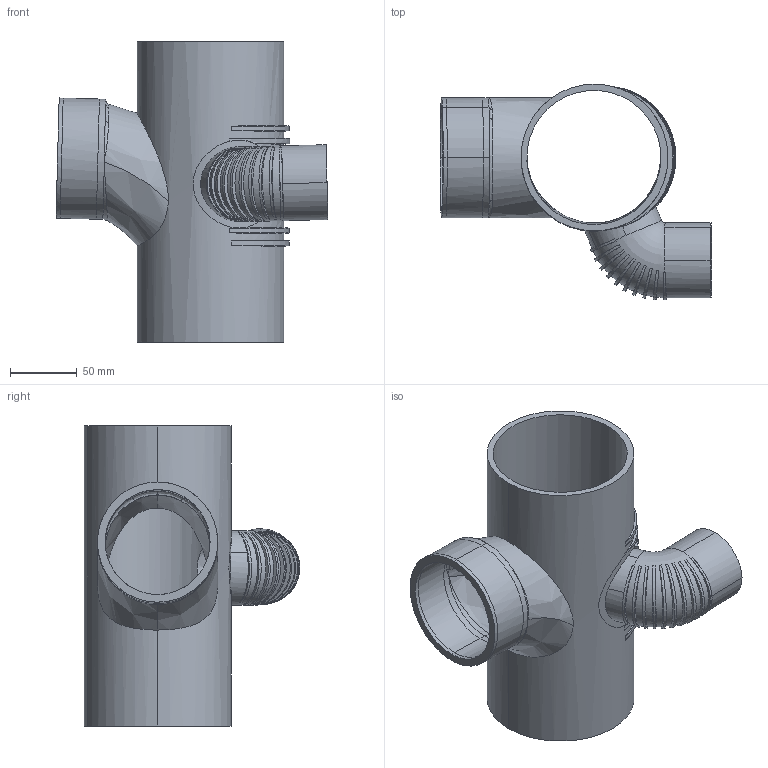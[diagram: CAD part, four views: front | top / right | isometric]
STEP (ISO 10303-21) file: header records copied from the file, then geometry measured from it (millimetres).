
FILE_DESCRIPTION(/* description */ (''),/* implementation_level */ '2;1');
FILE_NAME(/* name */ '310874.stp',/* time_stamp */ '2024-10-28T09:51:07+01:00',/* author */ ('JANAN'),/* organization */ (''),/* preprocessor_version */ 'ST-DEVELOPER v19.2',/* originating_system */ 'Autodesk Inventor 2023',/* authorisation */ '');
FILE_SCHEMA (('AUTOMOTIVE_DESIGN { 1 0 10303 214 3 1 1 }'));
Length unit declared in the file: millimetre
Products named in the file (1): tmp673C.tmp
Bounding box: 204.45 x 162.08 x 226 mm (x, y, z)
Volume: 495258.4 mm3; surface area: 215673.3 mm2
Topology: 1 solids, 1 shells, 158 faces, 434 edges, 281 vertices
Faces by surface type: bspline 59, cylinder 49, cone 40, plane 9, torus 1
Full cylindrical faces by diameter (mm): 100.85 x1
Entity records: 13113 total; most frequent: CARTESIAN_POINT 9398, ORIENTED_EDGE 860, DIRECTION 544, EDGE_CURVE 430, VERTEX_POINT 281, AXIS2_PLACEMENT_3D 236, B_SPLINE_CURVE_WITH_KNOTS 222, EDGE_LOOP 171
